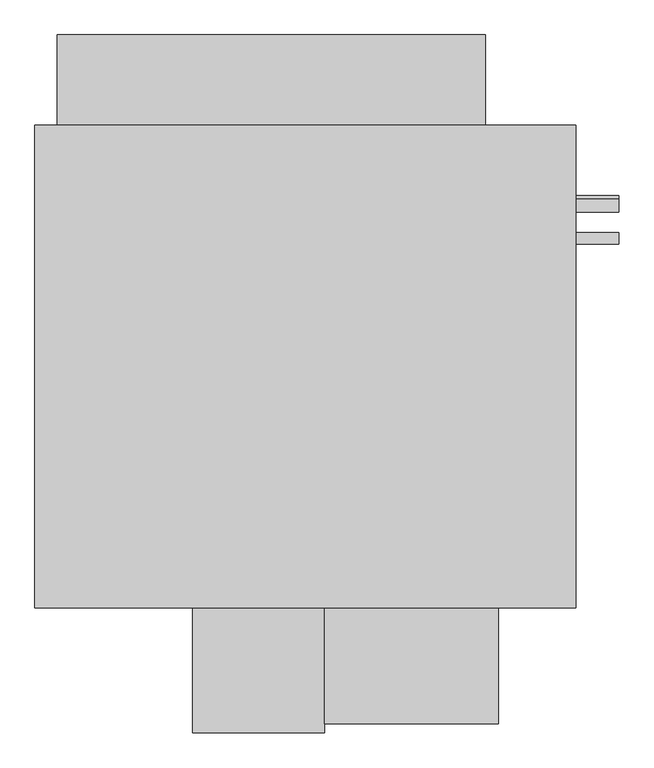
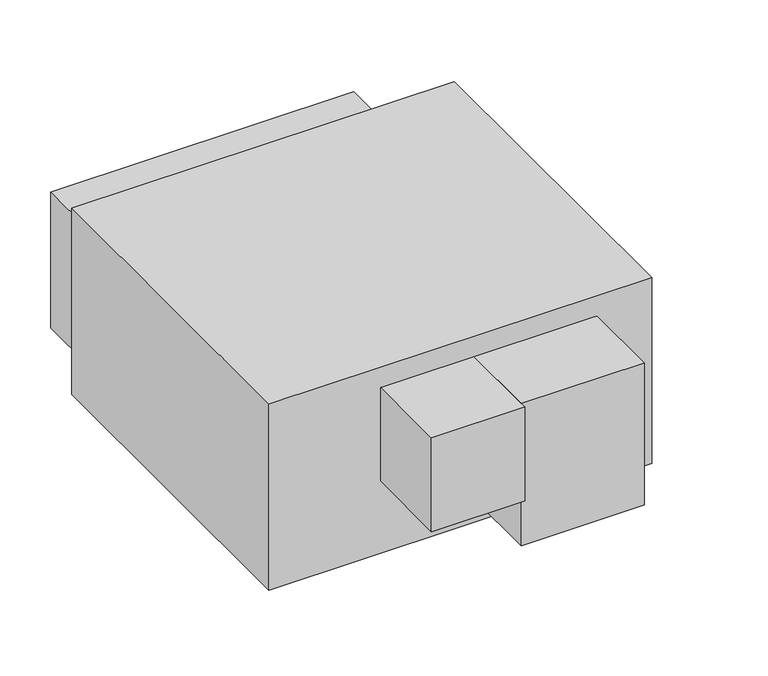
"""IFC4 building model written with IfcOpenShell, lengths in millimetres: proxy geometry, Horizontal_Direct_Drive_Blower_Coil_Unit_-_42DHA_-_CARRIER_-_2-Pipe_Cool-EHeat_RH_2022 : Size 10 - 460v/60Hz/3Ph - 8 Row 9.9kW."""

from ifc_helpers import new_model, si_unit, point, frame, frame_2d, origin, place, context, project, spatial, polyline, circle_curve, trimmed, segment, composite_curve, outline, extrude, source, transform, mapped, element, save


def mechanical_equipment_ac6293c1(model_context):
    return source(origin(), model_context, "Body", "SweptSolid", [
        extrude(outline(polyline([(0.0, 492.125), (0.0, -460.375), (-1066.8, -460.375), (-1066.8, 492.125), (0.0, 492.125)])), frame((0.0, 0.0, -549.2558174), z_axis=(0.0, 0.0, 1.0), x_axis=(1.0, 0.0, 0.0)), (0.0, 0.0, 1.0), 549.2558174),
        extrude(outline(polyline([(-152.4, -688.975), (-495.3, -688.975), (-495.3, -460.375), (-152.4, -460.375), (-152.4, -688.975)])), frame((0.0, 0.0, -479.4058174), z_axis=(0.0, 0.0, 1.0), x_axis=(1.0, 0.0, 0.0)), (0.0, 0.0, 1.0), 419.1),
        extrude(outline(composite_curve([segment(trimmed(circle_curve(frame_2d((333.375, -177.8)), 12.7), [point((346.075, -177.8))], [point((320.675, -177.8))], False, "CARTESIAN"), True, "CONTINUOUS"), segment(trimmed(circle_curve(frame_2d((333.375, -177.8)), 12.7), [point((320.675, -177.8))], [point((346.075, -177.8))], False, "CARTESIAN"), True, "CONTINUOUS")], self_intersect=False)), frame((0.0, 0.0, 0.0), z_axis=(1.0, 0.0, 0.0), x_axis=(0.0, 1.0, 0.0)), (0.0, 0.0, 1.0), 85.2932),
        extrude(outline(composite_curve([segment(trimmed(circle_curve(frame_2d((340.130856, -422.2558174)), 12.7), [point((352.830856, -422.2558174))], [point((327.430856, -422.2558174))], False, "CARTESIAN"), True, "CONTINUOUS"), segment(trimmed(circle_curve(frame_2d((340.130856, -422.2558174)), 12.7), [point((327.430856, -422.2558174))], [point((352.830856, -422.2558174))], False, "CARTESIAN"), True, "CONTINUOUS")], self_intersect=False)), frame((0.0, 0.0, 0.0), z_axis=(1.0, 0.0, 0.0), x_axis=(0.0, 1.0, 0.0)), (0.0, 0.0, 1.0), 85.2932),
        extrude(outline(composite_curve([segment(trimmed(circle_curve(frame_2d((268.4630494, -504.8058174)), 11.1125), [point((279.5755494, -504.8058174))], [point((257.3505494, -504.8058174))], False, "CARTESIAN"), True, "CONTINUOUS"), segment(trimmed(circle_curve(frame_2d((268.4630494, -504.8058174)), 11.1125), [point((257.3505494, -504.8058174))], [point((279.5755494, -504.8058174))], False, "CARTESIAN"), True, "CONTINUOUS")], self_intersect=False)), frame((0.0, 0.0, 0.0), z_axis=(1.0, 0.0, 0.0), x_axis=(0.0, 1.0, 0.0)), (0.0, 0.0, 1.0), 85.2932),
        extrude(outline(polyline([(-1022.35, 669.925), (-177.8, 669.925), (-177.8, 492.125), (-1022.35, 492.125), (-1022.35, 669.925)])), frame((0.0, 0.0, -476.2308174), z_axis=(0.0, 0.0, 1.0), x_axis=(1.0, 0.0, 0.0)), (0.0, 0.0, 1.0), 400.05),
        extrude(outline(polyline([(-495.3, -706.4375), (-755.65, -706.4375), (-755.65, -460.375), (-495.3, -460.375), (-495.3, -706.4375)])), frame((0.0, 0.0, -336.5308174), z_axis=(0.0, 0.0, 1.0), x_axis=(1.0, 0.0, 0.0)), (0.0, 0.0, 1.0), 276.225),
    ])


if __name__ == "__main__":
    model = new_model("IFC4")
    model_context = context("Model", 3, world=origin())
    ifc_project = project(units=[si_unit("LENGTHUNIT", "METRE", prefix="MILLI")], contexts=[model_context])
    site = spatial("IfcSite", under=ifc_project)
    building = spatial("IfcBuilding", under=site)
    placement = place(None, origin())
    mechanical_equipment_shape = mechanical_equipment_ac6293c1(model_context)
    element("IfcBuildingElementProxy", 1, Name="Horizontal_Direct_Drive_Blower_Coil_Unit_-_42DHA_-_CARRIER_-_2-Pipe_Cool-EHeat_RH_2022 : Size 10 - 460v/60Hz/3Ph - 8 Row 9.9kW", ObjectType="Horizontal_Direct_Drive_Blower_Coil_Unit_-_42DHA_-_CARRIER_-_2-Pipe_Cool-EHeat_RH_2022 : Size 10 - 460v/60Hz/3Ph - 8 Row 9.9kW", at=placement, inside=building, context=model_context, shape_type="MappedRepresentation", body=[
        mapped(mechanical_equipment_shape, transform((0.0, 0.0, 0.0), x_axis=(1.0, 0.0, 0.0), y_axis=(0.0, 1.0, 0.0), z_axis=(0.0, 0.0, 1.0))),
    ])
    save(model, "model.ifc")
